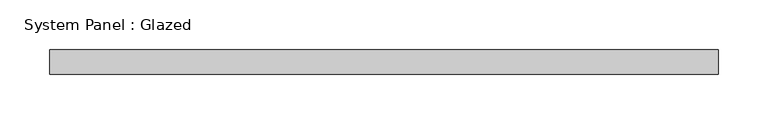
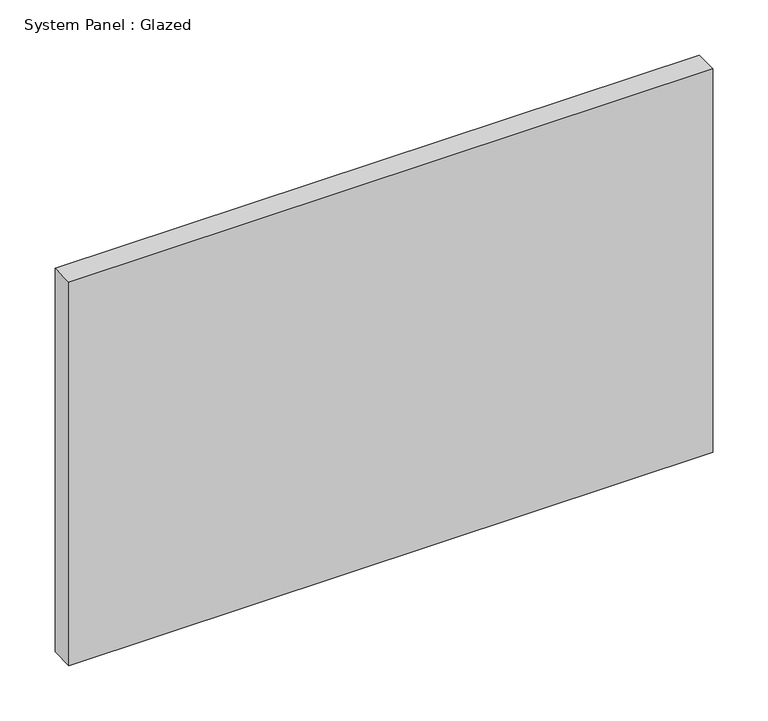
"""IFC4 building model written with IfcOpenShell, lengths in millimetres: plate geometry, System Panel : Glazed."""

from ifc_helpers import new_model, si_unit, origin, origin_with_axes, place, context, project, spatial, polyline, outline, extrude, source, transform, mapped, element, save


def system_panel_glazed_aea024ea(model_context):
    return source(origin(), model_context, "Body", "SweptSolid", [
        extrude(outline(polyline([(337.4999999, -49.5), (-337.4999999, -49.5), (-337.4999999, -24.5), (337.4999999, -24.5), (337.4999999, -49.5)])), origin_with_axes(), (0.0, 0.0, 1.0), 425.0),
    ])


if __name__ == "__main__":
    model = new_model("IFC4")
    model_context = context("Model", 3, world=origin())
    ifc_project = project(units=[si_unit("LENGTHUNIT", "METRE", prefix="MILLI")], contexts=[model_context])
    site = spatial("IfcSite", under=ifc_project)
    building = spatial("IfcBuilding", under=site)
    placement = place(None, origin())
    system_panel_glazed_shape = system_panel_glazed_aea024ea(model_context)
    element("IfcPlate", 1, ObjectType="System Panel : Glazed", at=placement, inside=building, context=model_context, shape_type="MappedRepresentation", body=[
        mapped(system_panel_glazed_shape, transform((0.0, 0.0, 0.0), x_axis=(1.0, 0.0, 0.0), y_axis=(0.0, 1.0, 0.0), z_axis=(0.0, 0.0, 1.0))),
    ])
    save(model, "model.ifc")
